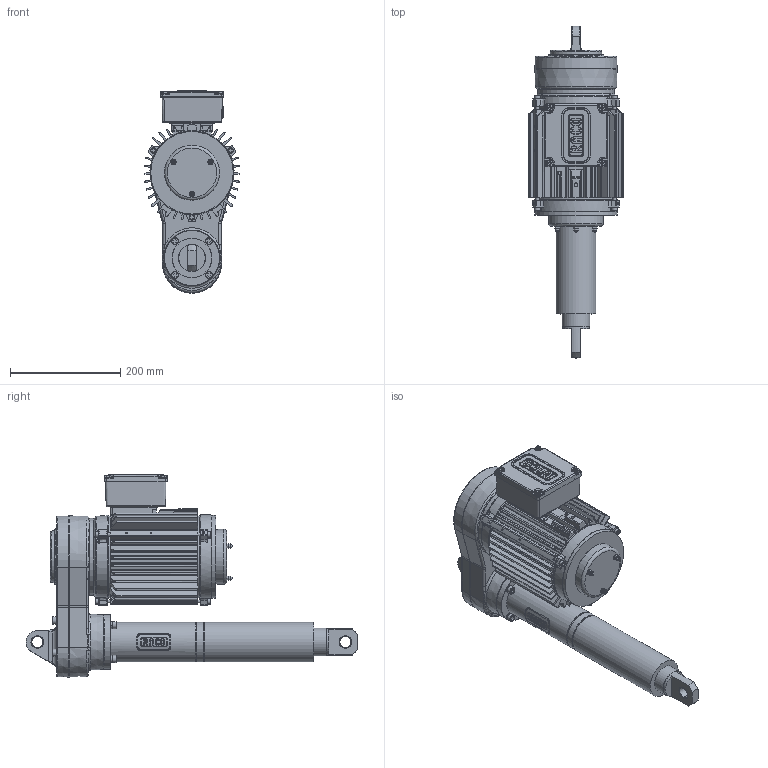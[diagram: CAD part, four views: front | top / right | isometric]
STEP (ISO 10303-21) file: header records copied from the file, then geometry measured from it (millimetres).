
FILE_DESCRIPTION( ( '153-599-4' ), '1' );
FILE_NAME( 'C:/daten/bearbeitung katalogbilder/RBs rendern/austausch pomplun/mit identnr/T6C6-0200-160-267-5.stp', 'Unknown', ( 'Christoph Hahmann' ), ( 'RACO-ELEKTRO-MASCHINEN GmbH' ), 'PSStep 17.0.49', 'Solid Edge ST 7', ' ' );
FILE_SCHEMA( ( 'AUTOMOTIVE_DESIGN { 1 0 10303 214 1 1 1 1 }' ) );
Length unit declared in the file: millimetre
Products named in the file (7): Assem1; 12.01-06 6; 12. 2-146-133-82; 02.14-06-0200 6; 01.15-06-0200 6; 01.01-150-131-3; 146-112-5-R
Assembly tree (6 placements, depth 2):
  Assem1
    12.01-06 6
    12. 2-146-133-82
    02.14-06-0200 6
    01.15-06-0200 6
    01.01-150-131-3
    146-112-5-R
Bounding box: 173.98 x 603.5 x 368 mm (x, y, z)
Surface area: 970183.3 mm2 (no closed solid volume)
Topology: 0 solids, 3876 shells, 3876 faces, 18191 edges, 17642 vertices
Faces by surface type: plane 1391, cylinder 1214, torus 361, cone 313, bspline 307, extrusion 194, sphere 96
Full cylindrical faces by diameter (mm): 2.459 x12, 3 x2, 3.141 x4, 3.242 x16, 4 x8, 4.02 x4, 4.1 x4, 4.134 x22, 4.773 x6, 4.917 x6, 5 x8, 5.3 x7, 5.5 x4, 5.7 x3, 6 x20, 6.466 x4, 6.647 x9, 7 x10, 7.33 x1, 7.5 x3, 8 x12, 8.4 x4, 8.5 x3, 9.15 x3, 10 x13, 12 x4, 13 x7, 13.4 x3, 14.376 x1, 18.376 x2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
Entity records: 271427 total; most frequent: CARTESIAN_POINT 107628, DIRECTION 28112, VERTEX_POINT 17427, ORIENTED_EDGE 17388, EDGE_CURVE 17388, AXIS2_PLACEMENT_3D 10165, VECTOR 7782, LINE 7588
